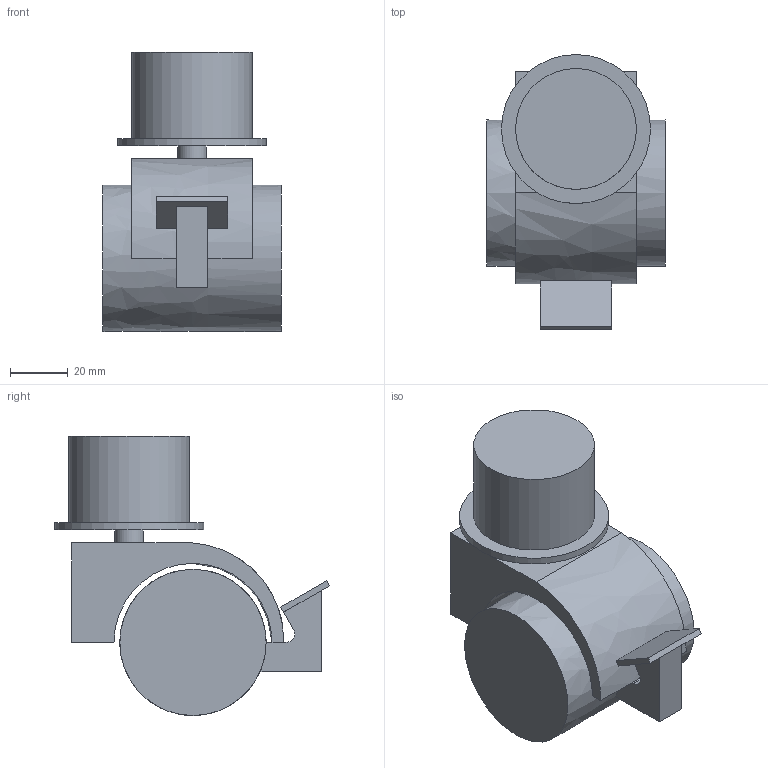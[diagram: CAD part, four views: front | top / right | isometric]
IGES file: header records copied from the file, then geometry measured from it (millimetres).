
Start section: Data from Parasolid IGES Translator 20.0.26, Copyright(c) 2006 Siemens P LM Software. All Rights Reserved.
Global section: file name: 70201.igs; native system: By Siemens PLM Incorporated; preprocessor: XPlus GENERIC/IGES 20.0.26; author: Noname; organization: Noname; date: 20210125.173408; units: millimetre
Bounding box: 62 x 95.53 x 97 mm (x, y, z)
Surface area: 36795.7 mm2 (no closed solid volume)
Topology: 0 solids, 0 shells, 32 faces, 148 edges, 140 vertices
Faces by surface type: extrusion 24, revolution 8
